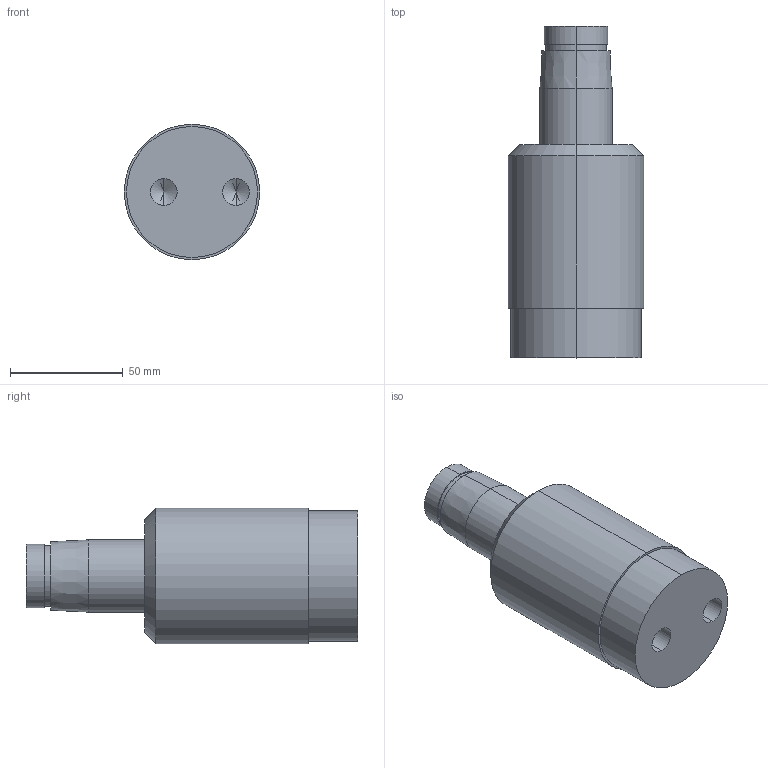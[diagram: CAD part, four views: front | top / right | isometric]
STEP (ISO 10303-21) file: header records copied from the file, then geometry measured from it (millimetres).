
FILE_DESCRIPTION (( 'STEP AP214' ), '1' );
FILE_NAME ('#HPS-40DA.STEP', '2021-10-18T01:56:21', ( '' ), ( '' ), 'SwSTEP 2.0', 'SolidWorks 2016', '' );
FILE_SCHEMA (( 'AUTOMOTIVE_DESIGN' ));
Length unit declared in the file: millimetre
Products named in the file (1): #HPS-40DA
Bounding box: 60 x 147 x 60 mm (x, y, z)
Volume: 296476.7 mm3; surface area: 29063.4 mm2
Topology: 1 solids, 1 shells, 28 faces, 58 edges, 34 vertices
Faces by surface type: cylinder 14, cone 8, plane 6
Entity records: 844 total; most frequent: DIRECTION 144, CARTESIAN_POINT 117, ORIENTED_EDGE 108, AXIS2_PLACEMENT_3D 61, EDGE_CURVE 54, EDGE_LOOP 34, VERTEX_POINT 34, CIRCLE 32
